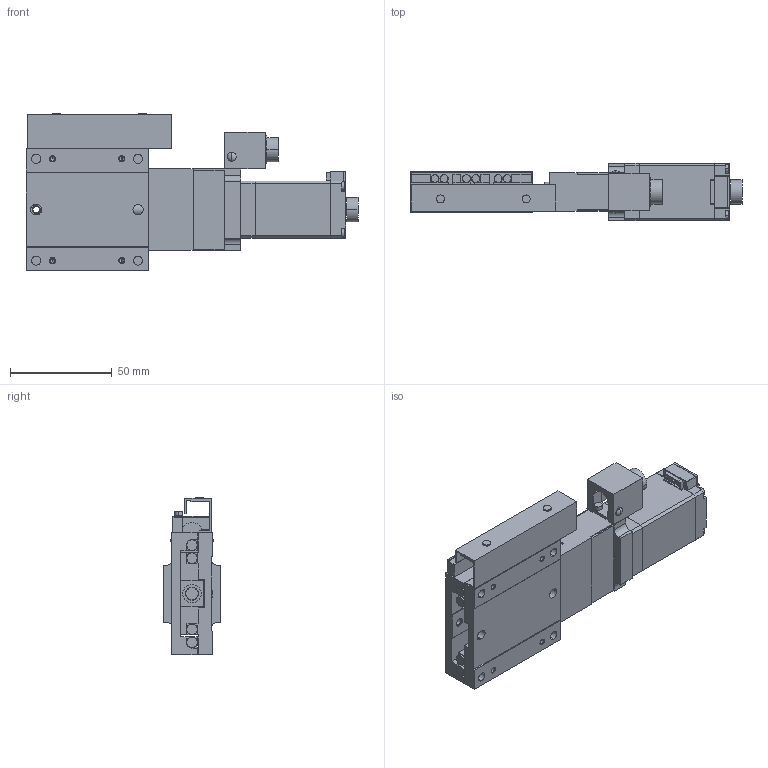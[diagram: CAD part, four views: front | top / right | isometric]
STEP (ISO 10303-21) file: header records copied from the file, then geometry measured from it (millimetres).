
FILE_DESCRIPTION(('STEP AP203'),'1');
FILE_NAME('C:/3D-Trans/3D_PG615M-L□-D+241108.step','2024-11-08T02:23:31',(' '),(' '),'Spatial InterOp 3D',' ',' ');
FILE_SCHEMA(('CONFIG_CONTROL_DESIGN'));
Length unit declared in the file: millimetre
Products named in the file (6): 1; 2; 3; 4; 5; 6
Bounding box: 163 x 28 x 77.4 mm (x, y, z)
Volume: 125048.9 mm3; surface area: 54596.5 mm2
Topology: 6 solids, 7 shells, 641 faces, 1647 edges, 1045 vertices
Faces by surface type: plane 383, cylinder 190, cone 64, sphere 4
Entity records: 19542 total; most frequent: DIRECTION 3404, CARTESIAN_POINT 3315, ORIENTED_EDGE 3246, EDGE_CURVE 1623, LINE 1136, VECTOR 1136, AXIS2_PLACEMENT_3D 1134, VERTEX_POINT 1045
